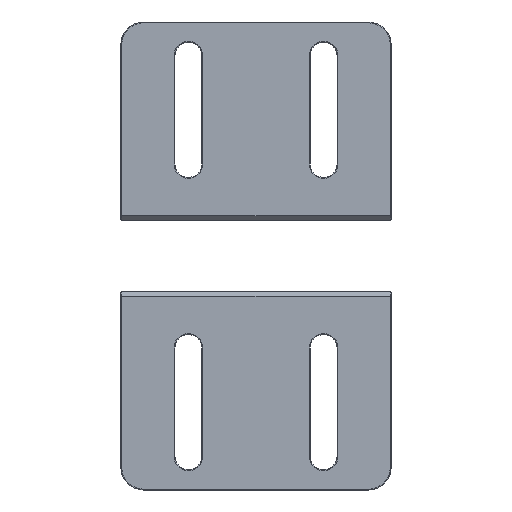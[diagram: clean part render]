
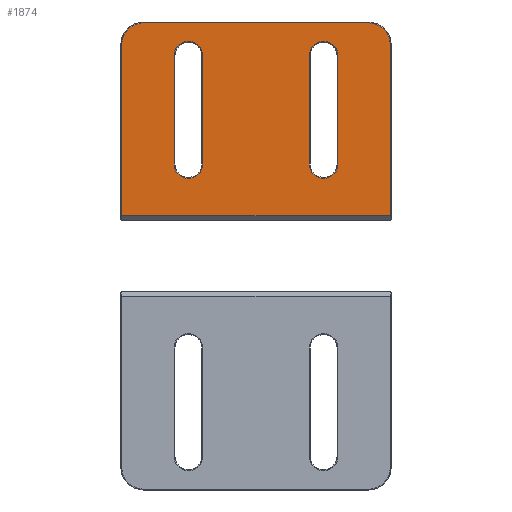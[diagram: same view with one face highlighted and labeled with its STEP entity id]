
A CAD part, front view. The second image highlights one B-rep face of the part: STEP entity #1874.
In plain terms, the highlighted planar face has unit normal (0, -1, 0).
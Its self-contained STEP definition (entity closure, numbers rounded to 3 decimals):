
#23 = CARTESIAN_POINT ( 'NONE',  ( -18.2, -30., 5. ) ) ;
#44 = DIRECTION ( 'NONE',  ( 0., 0., -1. ) ) ;
#54 = VECTOR ( 'NONE', #5500, 1000. ) ;
#84 = DIRECTION ( 'NONE',  ( 0., -1., 0. ) ) ;
#95 = LINE ( 'NONE', #3004, #822 ) ;
#117 = CARTESIAN_POINT ( 'NONE',  ( 25., -30., 43.8 ) ) ;
#165 = EDGE_CURVE ( 'NONE', #6060, #3049, #4733, .T. ) ;
#177 = CARTESIAN_POINT ( 'NONE',  ( 29.8, -30., 39. ) ) ;
#226 = VERTEX_POINT ( 'NONE', #728 ) ;
#257 = DIRECTION ( 'NONE',  ( 0., -1., 0. ) ) ;
#295 = ORIENTED_EDGE ( 'NONE', *, *, #1471, .F. ) ;
#351 = AXIS2_PLACEMENT_3D ( 'NONE', #3069, #257, #1659 ) ;
#523 = VERTEX_POINT ( 'NONE', #3367 ) ;
#575 = ORIENTED_EDGE ( 'NONE', *, *, #5719, .F. ) ;
#588 = VECTOR ( 'NONE', #1195, 1000. ) ;
#652 = LINE ( 'NONE', #2627, #588 ) ;
#683 = CARTESIAN_POINT ( 'NONE',  ( -29.8, -30., 39. ) ) ;
#707 = EDGE_CURVE ( 'NONE', #3049, #1267, #1837, .T. ) ;
#728 = CARTESIAN_POINT ( 'NONE',  ( -11.8, -30., 36.5 ) ) ;
#822 = VECTOR ( 'NONE', #3492, 1000. ) ;
#823 = CARTESIAN_POINT ( 'NONE',  ( 29.8, -30., 39. ) ) ;
#862 = DIRECTION ( 'NONE',  ( 0., 0., 1. ) ) ;
#882 = ORIENTED_EDGE ( 'NONE', *, *, #707, .F. ) ;
#891 = CARTESIAN_POINT ( 'NONE',  ( -30., -30., 5. ) ) ;
#950 = VERTEX_POINT ( 'NONE', #683 ) ;
#994 = CARTESIAN_POINT ( 'NONE',  ( -30., -30., 43.8 ) ) ;
#995 = CARTESIAN_POINT ( 'NONE',  ( 29.8, -30., 41.812 ) ) ;
#997 = EDGE_CURVE ( 'NONE', #950, #5884, #4003, .T. ) ;
#1126 = CARTESIAN_POINT ( 'NONE',  ( 25., -30., 43.8 ) ) ;
#1172 = ORIENTED_EDGE ( 'NONE', *, *, #2663, .F. ) ;
#1195 = DIRECTION ( 'NONE',  ( 0., 0., 1. ) ) ;
#1205 = CARTESIAN_POINT ( 'NONE',  ( -29.8, -30., 39. ) ) ;
#1223 = CARTESIAN_POINT ( 'NONE',  ( -27.812, -30., 43.8 ) ) ;
#1267 = VERTEX_POINT ( 'NONE', #3750 ) ;
#1327 = CARTESIAN_POINT ( 'NONE',  ( 11.8, -30., 5. ) ) ;
#1364 = DIRECTION ( 'NONE',  ( 0., 1., 0. ) ) ;
#1430 = LINE ( 'NONE', #1327, #2466 ) ;
#1471 = EDGE_CURVE ( 'NONE', #3168, #5567, #4637, .T. ) ;
#1555 = EDGE_CURVE ( 'NONE', #5884, #2583, #4931, .T. ) ;
#1590 = EDGE_CURVE ( 'NONE', #226, #2561, #2266, .T. ) ;
#1591 = EDGE_LOOP ( 'NONE', ( #6055, #3708, #4241, #295, #4473 ) ) ;
#1638 = EDGE_CURVE ( 'NONE', #2402, #3046, #5082, .T. ) ;
#1659 = DIRECTION ( 'NONE',  ( 0., 0., -1. ) ) ;
#1681 = CARTESIAN_POINT ( 'NONE',  ( -25., -30., 43.8 ) ) ;
#1815 = CARTESIAN_POINT ( 'NONE',  ( 11.8, -30., 36.5 ) ) ;
#1837 = LINE ( 'NONE', #3480, #3310 ) ;
#1874 = ADVANCED_FACE ( 'NONE', ( #4924, #2491, #4195 ), #5163, .F. ) ;
#1925 = EDGE_LOOP ( 'NONE', ( #5043, #575, #3712, #2767 ) ) ;
#2057 = CIRCLE ( 'NONE', #3529, 3.2 ) ;
#2173 = CARTESIAN_POINT ( 'NONE',  ( -11.8, -30., 5. ) ) ;
#2178 = CARTESIAN_POINT ( 'NONE',  ( 29.8, -30., 5. ) ) ;
#2266 = CIRCLE ( 'NONE', #3224, 3.2 ) ;
#2308 = LINE ( 'NONE', #23, #4013 ) ;
#2364 = DIRECTION ( 'NONE',  ( 0., 0., -1. ) ) ;
#2402 = VERTEX_POINT ( 'NONE', #4338 ) ;
#2466 = VECTOR ( 'NONE', #3792, 1000. ) ;
#2491 = FACE_BOUND ( 'NONE', #1591, .T. ) ;
#2561 = VERTEX_POINT ( 'NONE', #4279 ) ;
#2583 = VERTEX_POINT ( 'NONE', #1126 ) ;
#2627 = CARTESIAN_POINT ( 'NONE',  ( -29.8, -30., 5. ) ) ;
#2633 =( BOUNDED_CURVE ( )  B_SPLINE_CURVE ( 3, ( #117, #3359, #995, #823 ),
 .UNSPECIFIED., .F., .T. ) 
 B_SPLINE_CURVE_WITH_KNOTS ( ( 4, 4 ),
 ( 0., 1. ),
 .UNSPECIFIED. ) 
 CURVE ( )  GEOMETRIC_REPRESENTATION_ITEM ( )  RATIONAL_B_SPLINE_CURVE ( ( 1., 0.805, 0.805, 1. ) ) 
 REPRESENTATION_ITEM ( '' )  );
#2646 = CARTESIAN_POINT ( 'NONE',  ( -29.8, -30., 41.812 ) ) ;
#2653 = EDGE_CURVE ( 'NONE', #3046, #523, #1430, .T. ) ;
#2663 = EDGE_CURVE ( 'NONE', #2583, #6060, #2633, .T. ) ;
#2735 = VECTOR ( 'NONE', #3087, 1000. ) ;
#2767 = ORIENTED_EDGE ( 'NONE', *, *, #2653, .F. ) ;
#2846 = DIRECTION ( 'NONE',  ( 1., 0., 0. ) ) ;
#2893 = DIRECTION ( 'NONE',  ( 0., -1., 0. ) ) ;
#2930 = VERTEX_POINT ( 'NONE', #5680 ) ;
#3004 = CARTESIAN_POINT ( 'NONE',  ( 18.2, -30., 5. ) ) ;
#3046 = VERTEX_POINT ( 'NONE', #1815 ) ;
#3049 = VERTEX_POINT ( 'NONE', #5620 ) ;
#3069 = CARTESIAN_POINT ( 'NONE',  ( 15., -30., 36.5 ) ) ;
#3087 = DIRECTION ( 'NONE',  ( 0., 0., 1. ) ) ;
#3131 = DIRECTION ( 'NONE',  ( 1., 0., 0. ) ) ;
#3135 = EDGE_CURVE ( 'NONE', #2561, #3168, #2308, .T. ) ;
#3168 = VERTEX_POINT ( 'NONE', #4772 ) ;
#3224 = AXIS2_PLACEMENT_3D ( 'NONE', #5697, #84, #2846 ) ;
#3228 = AXIS2_PLACEMENT_3D ( 'NONE', #5978, #4952, #3131 ) ;
#3307 = VECTOR ( 'NONE', #5247, 1000. ) ;
#3310 = VECTOR ( 'NONE', #6021, 1000. ) ;
#3327 = CARTESIAN_POINT ( 'NONE',  ( -15., -30., 9.3 ) ) ;
#3359 = CARTESIAN_POINT ( 'NONE',  ( 27.812, -30., 43.8 ) ) ;
#3367 = CARTESIAN_POINT ( 'NONE',  ( 11.8, -30., 12.5 ) ) ;
#3480 = CARTESIAN_POINT ( 'NONE',  ( -30., -30., 1. ) ) ;
#3492 = DIRECTION ( 'NONE',  ( 0., 0., 1. ) ) ;
#3529 = AXIS2_PLACEMENT_3D ( 'NONE', #4276, #3799, #2364 ) ;
#3651 = AXIS2_PLACEMENT_3D ( 'NONE', #5735, #2893, #44 ) ;
#3708 = ORIENTED_EDGE ( 'NONE', *, *, #4608, .F. ) ;
#3712 = ORIENTED_EDGE ( 'NONE', *, *, #4648, .F. ) ;
#3750 = CARTESIAN_POINT ( 'NONE',  ( -29.8, -30., 1. ) ) ;
#3792 = DIRECTION ( 'NONE',  ( 0., 0., -1. ) ) ;
#3799 = DIRECTION ( 'NONE',  ( 0., -1., 0. ) ) ;
#3849 = EDGE_CURVE ( 'NONE', #1267, #950, #652, .T. ) ;
#3900 = DIRECTION ( 'NONE',  ( 0., 0., -1. ) ) ;
#3961 = CARTESIAN_POINT ( 'NONE',  ( -11.8, -30., 12.5 ) ) ;
#3991 = CIRCLE ( 'NONE', #3228, 3.2 ) ;
#4003 =( BOUNDED_CURVE ( )  B_SPLINE_CURVE ( 3, ( #1205, #2646, #1223, #1681 ),
 .UNSPECIFIED., .F., .F. ) 
 B_SPLINE_CURVE_WITH_KNOTS ( ( 4, 4 ),
 ( 0., 1. ),
 .UNSPECIFIED. ) 
 CURVE ( )  GEOMETRIC_REPRESENTATION_ITEM ( )  RATIONAL_B_SPLINE_CURVE ( ( 1., 0.805, 0.805, 1. ) ) 
 REPRESENTATION_ITEM ( '' )  );
#4013 = VECTOR ( 'NONE', #3900, 1000. ) ;
#4195 = FACE_BOUND ( 'NONE', #1925, .T. ) ;
#4241 = ORIENTED_EDGE ( 'NONE', *, *, #4885, .F. ) ;
#4276 = CARTESIAN_POINT ( 'NONE',  ( -15., -30., 12.5 ) ) ;
#4279 = CARTESIAN_POINT ( 'NONE',  ( -18.2, -30., 36.5 ) ) ;
#4338 = CARTESIAN_POINT ( 'NONE',  ( 18.2, -30., 36.5 ) ) ;
#4363 = ORIENTED_EDGE ( 'NONE', *, *, #1555, .F. ) ;
#4454 = EDGE_LOOP ( 'NONE', ( #4571, #1172, #4363, #5692, #5179, #882 ) ) ;
#4473 = ORIENTED_EDGE ( 'NONE', *, *, #3135, .F. ) ;
#4571 = ORIENTED_EDGE ( 'NONE', *, *, #165, .F. ) ;
#4608 = EDGE_CURVE ( 'NONE', #5126, #226, #5263, .T. ) ;
#4637 = CIRCLE ( 'NONE', #3651, 3.2 ) ;
#4648 = EDGE_CURVE ( 'NONE', #523, #2930, #3991, .T. ) ;
#4733 = LINE ( 'NONE', #2178, #54 ) ;
#4772 = CARTESIAN_POINT ( 'NONE',  ( -18.2, -30., 12.5 ) ) ;
#4885 = EDGE_CURVE ( 'NONE', #5567, #5126, #2057, .T. ) ;
#4924 = FACE_OUTER_BOUND ( 'NONE', #4454, .T. ) ;
#4931 = LINE ( 'NONE', #994, #3307 ) ;
#4952 = DIRECTION ( 'NONE',  ( 0., -1., 0. ) ) ;
#5043 = ORIENTED_EDGE ( 'NONE', *, *, #1638, .F. ) ;
#5082 = CIRCLE ( 'NONE', #351, 3.2 ) ;
#5126 = VERTEX_POINT ( 'NONE', #3961 ) ;
#5163 = PLANE ( 'NONE',  #5672 ) ;
#5179 = ORIENTED_EDGE ( 'NONE', *, *, #3849, .F. ) ;
#5247 = DIRECTION ( 'NONE',  ( 1., 0., 0. ) ) ;
#5263 = LINE ( 'NONE', #2173, #2735 ) ;
#5500 = DIRECTION ( 'NONE',  ( 0., 0., -1. ) ) ;
#5567 = VERTEX_POINT ( 'NONE', #3327 ) ;
#5620 = CARTESIAN_POINT ( 'NONE',  ( 29.8, -30., 1. ) ) ;
#5672 = AXIS2_PLACEMENT_3D ( 'NONE', #891, #1364, #862 ) ;
#5680 = CARTESIAN_POINT ( 'NONE',  ( 18.2, -30., 12.5 ) ) ;
#5692 = ORIENTED_EDGE ( 'NONE', *, *, #997, .F. ) ;
#5697 = CARTESIAN_POINT ( 'NONE',  ( -15., -30., 36.5 ) ) ;
#5719 = EDGE_CURVE ( 'NONE', #2930, #2402, #95, .T. ) ;
#5735 = CARTESIAN_POINT ( 'NONE',  ( -15., -30., 12.5 ) ) ;
#5884 = VERTEX_POINT ( 'NONE', #6132 ) ;
#5978 = CARTESIAN_POINT ( 'NONE',  ( 15., -30., 12.5 ) ) ;
#6021 = DIRECTION ( 'NONE',  ( -1., 0., 0. ) ) ;
#6055 = ORIENTED_EDGE ( 'NONE', *, *, #1590, .F. ) ;
#6060 = VERTEX_POINT ( 'NONE', #177 ) ;
#6132 = CARTESIAN_POINT ( 'NONE',  ( -25., -30., 43.8 ) ) ;
